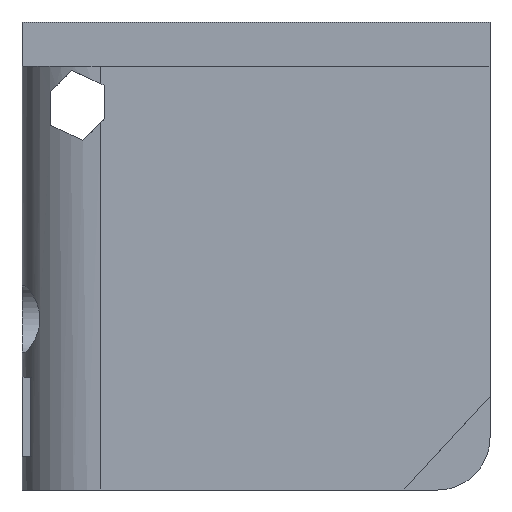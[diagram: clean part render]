
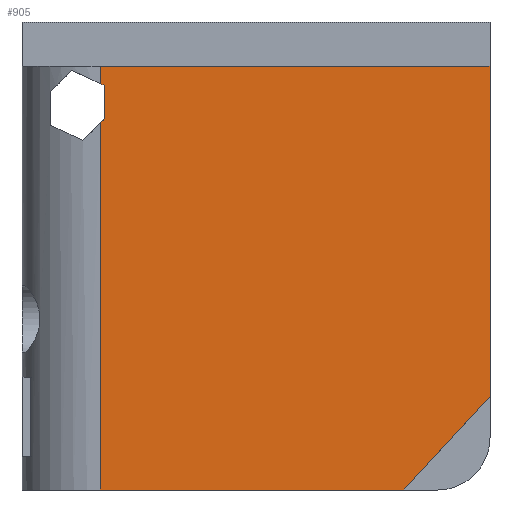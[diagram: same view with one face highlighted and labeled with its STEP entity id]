
A CAD part, left-side view. The second image highlights one B-rep face of the part: STEP entity #905.
In plain terms, the highlighted planar face has unit normal (-1, 0, 0).
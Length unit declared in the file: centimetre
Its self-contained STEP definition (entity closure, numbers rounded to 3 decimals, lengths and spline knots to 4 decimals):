
#34 = VERTEX_POINT ( 'NONE', #1302 ) ;
#37 = CARTESIAN_POINT ( 'NONE',  ( 0., 832.47, 1000. ) ) ;
#95 = VECTOR ( 'NONE', #243, 100. ) ;
#127 = DIRECTION ( 'NONE',  ( 0., -0.907, -0.421 ) ) ;
#142 = LINE ( 'NONE', #278, #647 ) ;
#174 = VECTOR ( 'NONE', #1196, 100. ) ;
#196 = EDGE_CURVE ( 'NONE', #942, #249, #546, .T. ) ;
#217 = DIRECTION ( 'NONE',  ( 0., 0., -1. ) ) ;
#243 = DIRECTION ( 'NONE',  ( 0., -1., 0. ) ) ;
#249 = VERTEX_POINT ( 'NONE', #1163 ) ;
#278 = CARTESIAN_POINT ( 'NONE',  ( 0., 893.4891, 896.8109 ) ) ;
#299 = VERTEX_POINT ( 'NONE', #1650 ) ;
#329 = VECTOR ( 'NONE', #217, 100. ) ;
#357 = EDGE_CURVE ( 'NONE', #1073, #718, #1392, .T. ) ;
#362 = VECTOR ( 'NONE', #443, 100. ) ;
#378 = ORIENTED_EDGE ( 'NONE', *, *, #886, .T. ) ;
#387 = CARTESIAN_POINT ( 'NONE',  ( 0., 824.1209, 793.2379 ) ) ;
#427 = CARTESIAN_POINT ( 'NONE',  ( 0., 832.47, 1000. ) ) ;
#443 = DIRECTION ( 'NONE',  ( 0., 0., -1. ) ) ;
#464 = VERTEX_POINT ( 'NONE', #630 ) ;
#471 = ORIENTED_EDGE ( 'NONE', *, *, #1009, .F. ) ;
#481 = CARTESIAN_POINT ( 'NONE',  ( 0., 824.1209, 864.6343 ) ) ;
#500 = CARTESIAN_POINT ( 'NONE',  ( 0., 1000., 0. ) ) ;
#543 = ORIENTED_EDGE ( 'NONE', *, *, #1194, .F. ) ;
#546 = LINE ( 'NONE', #659, #174 ) ;
#564 = EDGE_LOOP ( 'NONE', ( #781, #1211, #378, #1604, #1507, #543, #471, #1244, #1058 ) ) ;
#569 = CARTESIAN_POINT ( 'NONE',  ( 0., 824.1209, 864.6343 ) ) ;
#575 = CARTESIAN_POINT ( 'NONE',  ( 0., 1000., 1000. ) ) ;
#619 = EDGE_CURVE ( 'NONE', #718, #34, #1156, .T. ) ;
#630 = CARTESIAN_POINT ( 'NONE',  ( 0., 832.47, 904.9315 ) ) ;
#647 = VECTOR ( 'NONE', #127, 100. ) ;
#652 = VECTOR ( 'NONE', #1016, 100. ) ;
#659 = CARTESIAN_POINT ( 'NONE',  ( 0., 184.0906, 0. ) ) ;
#683 = VERTEX_POINT ( 'NONE', #1666 ) ;
#686 = FACE_OUTER_BOUND ( 'NONE', #564, .T. ) ;
#718 = VERTEX_POINT ( 'NONE', #387 ) ;
#781 = ORIENTED_EDGE ( 'NONE', *, *, #357, .T. ) ;
#886 = EDGE_CURVE ( 'NONE', #34, #988, #1327, .T. ) ;
#887 = EDGE_CURVE ( 'NONE', #464, #683, #1465, .T. ) ;
#905 = ADVANCED_FACE ( 'NONE', ( #686 ), #1333, .F. ) ;
#935 = CARTESIAN_POINT ( 'NONE',  ( 0., 0., 200.851 ) ) ;
#942 = VERTEX_POINT ( 'NONE', #935 ) ;
#944 = DIRECTION ( 'NONE',  ( 0., 0., -1. ) ) ;
#988 = VERTEX_POINT ( 'NONE', #1646 ) ;
#999 = CARTESIAN_POINT ( 'NONE',  ( 0., 0., 1000. ) ) ;
#1009 = EDGE_CURVE ( 'NONE', #464, #299, #1112, .T. ) ;
#1010 = LINE ( 'NONE', #500, #652 ) ;
#1016 = DIRECTION ( 'NONE',  ( 0., -1., 0. ) ) ;
#1024 = CARTESIAN_POINT ( 'NONE',  ( 0., 824.1209, 793.2379 ) ) ;
#1058 = ORIENTED_EDGE ( 'NONE', *, *, #1286, .T. ) ;
#1073 = VERTEX_POINT ( 'NONE', #481 ) ;
#1112 = LINE ( 'NONE', #1408, #95 ) ;
#1143 = EDGE_CURVE ( 'NONE', #988, #249, #1010, .T. ) ;
#1153 = VECTOR ( 'NONE', #1240, 100. ) ;
#1156 = LINE ( 'NONE', #1024, #1510 ) ;
#1163 = CARTESIAN_POINT ( 'NONE',  ( 0., 184.0906, 0. ) ) ;
#1194 = EDGE_CURVE ( 'NONE', #299, #942, #1282, .T. ) ;
#1195 = DIRECTION ( 'NONE',  ( 0., 0., -1. ) ) ;
#1196 = DIRECTION ( 'NONE',  ( 0., 0.676, -0.737 ) ) ;
#1211 = ORIENTED_EDGE ( 'NONE', *, *, #619, .T. ) ;
#1213 = DIRECTION ( 'NONE',  ( 1., 0., 0. ) ) ;
#1240 = DIRECTION ( 'NONE',  ( 0., 0., -1. ) ) ;
#1244 = ORIENTED_EDGE ( 'NONE', *, *, #887, .T. ) ;
#1282 = LINE ( 'NONE', #999, #329 ) ;
#1286 = EDGE_CURVE ( 'NONE', #683, #1073, #142, .T. ) ;
#1302 = CARTESIAN_POINT ( 'NONE',  ( 0., 832.47, 784.8888 ) ) ;
#1327 = LINE ( 'NONE', #37, #362 ) ;
#1333 = PLANE ( 'NONE',  #1561 ) ;
#1392 = LINE ( 'NONE', #569, #1153 ) ;
#1402 = VECTOR ( 'NONE', #1195, 100. ) ;
#1408 = CARTESIAN_POINT ( 'NONE',  ( 0., 1000., 904.9315 ) ) ;
#1465 = LINE ( 'NONE', #427, #1402 ) ;
#1507 = ORIENTED_EDGE ( 'NONE', *, *, #196, .F. ) ;
#1510 = VECTOR ( 'NONE', #1681, 100. ) ;
#1561 = AXIS2_PLACEMENT_3D ( 'NONE', #575, #1213, #944 ) ;
#1604 = ORIENTED_EDGE ( 'NONE', *, *, #1143, .T. ) ;
#1646 = CARTESIAN_POINT ( 'NONE',  ( 0., 832.47, 0. ) ) ;
#1650 = CARTESIAN_POINT ( 'NONE',  ( 0., 0., 904.9315 ) ) ;
#1666 = CARTESIAN_POINT ( 'NONE',  ( 0., 832.47, 868.5071 ) ) ;
#1681 = DIRECTION ( 'NONE',  ( 0., 0.707, -0.707 ) ) ;
